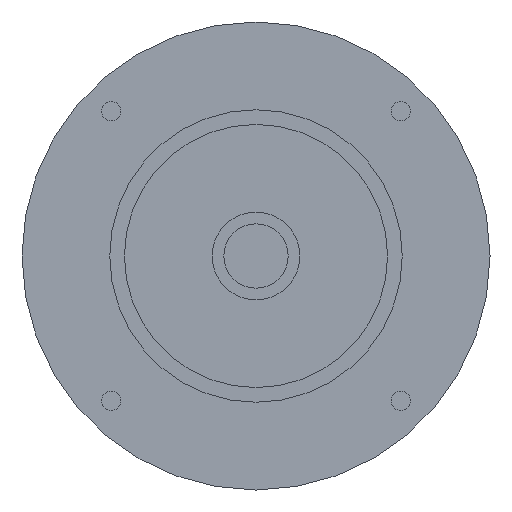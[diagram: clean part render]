
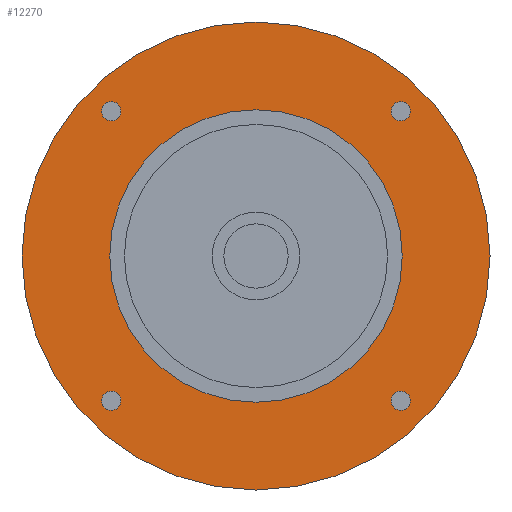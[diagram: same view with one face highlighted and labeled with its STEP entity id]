
A CAD part, left-side view. The second image highlights one B-rep face of the part: STEP entity #12270.
In plain terms, the highlighted planar face has unit normal (-1, 0, 0) as drawn and (0, 0, -1) by its records, which use the part's own axes.
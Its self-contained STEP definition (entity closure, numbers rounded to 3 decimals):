
#8640=CARTESIAN_POINT('',(-26.399,24.749,-42.2));
#8650=VERTEX_POINT('',#8640);
#8830=CARTESIAN_POINT('',(-23.099,24.749,-42.2));
#8840=VERTEX_POINT('',#8830);
#8870=CARTESIAN_POINT('',(-24.749,24.749,-42.2));
#8880=DIRECTION('',(0.,0.,-1.));
#8890=DIRECTION('',(1.,0.,0.));
#8900=AXIS2_PLACEMENT_3D('',#8870,#8880,#8890);
#8910=CIRCLE('',#8900,1.65);
#8920=EDGE_CURVE('',#8650,#8840,#8910,.T.);
#9060=CARTESIAN_POINT('',(23.099,24.749,-42.2));
#9070=VERTEX_POINT('',#9060);
#9250=CARTESIAN_POINT('',(26.399,24.749,-42.2));
#9260=VERTEX_POINT('',#9250);
#9290=CARTESIAN_POINT('',(24.749,24.749,-42.2));
#9300=DIRECTION('',(0.,0.,-1.));
#9310=DIRECTION('',(1.,0.,0.));
#9320=AXIS2_PLACEMENT_3D('',#9290,#9300,#9310);
#9330=CIRCLE('',#9320,1.65);
#9340=EDGE_CURVE('',#9070,#9260,#9330,.T.);
#11390=CARTESIAN_POINT('',(-40.,0.,-42.2));
#11400=VERTEX_POINT('',#11390);
#11430=CARTESIAN_POINT('',(0.,0.,
-42.2));
#11440=DIRECTION('',(0.,0.,-1.));
#11450=DIRECTION('',(1.,0.,0.));
#11460=AXIS2_PLACEMENT_3D('',#11430,#11440,#11450);
#11470=CIRCLE('',#11460,40.);
#11480=CARTESIAN_POINT('',(40.,0.,-42.2));
#11490=VERTEX_POINT('',#11480);
#11500=EDGE_CURVE('',#11400,#11490,#11470,.T.);
#11620=CARTESIAN_POINT('',(0.,0.,
-42.2));
#11630=DIRECTION('',(0.,0.,1.));
#11640=DIRECTION('',(1.,0.,0.));
#11650=AXIS2_PLACEMENT_3D('',#11620,#11630,#11640);
#11660=PLANE('',#11650);
#11670=CARTESIAN_POINT('',(24.749,-24.749,-42.2));
#11680=DIRECTION('',(0.,0.,-1.));
#11690=DIRECTION('',(1.,0.,0.));
#11700=AXIS2_PLACEMENT_3D('',#11670,#11680,#11690);
#11710=CIRCLE('',#11700,1.65);
#11720=CARTESIAN_POINT('',(26.399,-24.749,-42.2));
#11730=VERTEX_POINT('',#11720);
#11740=CARTESIAN_POINT('',(23.099,-24.749,-42.2));
#11750=VERTEX_POINT('',#11740);
#11760=EDGE_CURVE('',#11730,#11750,#11710,.T.);
#11770=ORIENTED_EDGE('',*,*,#11760,.F.);
#11780=EDGE_CURVE('',#11750,#11730,#11710,.T.);
#11790=ORIENTED_EDGE('',*,*,#11780,.F.);
#11800=EDGE_LOOP('',(#11790,#11770));
#11810=FACE_BOUND('',#11800,.T.);
#11820=CARTESIAN_POINT('',(0.,0.,
-42.2));
#11830=DIRECTION('',(0.,0.,1.));
#11840=DIRECTION('',(-1.,0.,0.));
#11850=AXIS2_PLACEMENT_3D('',#11820,#11830,#11840);
#11860=CIRCLE('',#11850,25.);
#11870=CARTESIAN_POINT('',(-25.,0.,-42.2));
#11880=VERTEX_POINT('',#11870);
#11890=CARTESIAN_POINT('',(25.,0.,-42.2));
#11900=VERTEX_POINT('',#11890);
#11910=EDGE_CURVE('',#11880,#11900,#11860,.T.);
#11920=ORIENTED_EDGE('',*,*,#11910,.T.);
#11930=EDGE_CURVE('',#11900,#11880,#11860,.T.);
#11940=ORIENTED_EDGE('',*,*,#11930,.T.);
#11950=EDGE_LOOP('',(#11940,#11920));
#11960=FACE_BOUND('',#11950,.T.);
#11970=CARTESIAN_POINT('',(-24.749,-24.749,-42.2));
#11980=DIRECTION('',(0.,0.,-1.));
#11990=DIRECTION('',(1.,0.,0.));
#12000=AXIS2_PLACEMENT_3D('',#11970,#11980,#11990);
#12010=CIRCLE('',#12000,1.65);
#12020=CARTESIAN_POINT('',(-23.099,-24.749,-42.2));
#12030=VERTEX_POINT('',#12020);
#12040=CARTESIAN_POINT('',(-26.399,-24.749,-42.2));
#12050=VERTEX_POINT('',#12040);
#12060=EDGE_CURVE('',#12030,#12050,#12010,.T.);
#12070=ORIENTED_EDGE('',*,*,#12060,.F.);
#12080=EDGE_CURVE('',#12050,#12030,#12010,.T.);
#12090=ORIENTED_EDGE('',*,*,#12080,.F.);
#12100=EDGE_LOOP('',(#12090,#12070));
#12110=FACE_BOUND('',#12100,.T.);
#12120=EDGE_CURVE('',#8840,#8650,#8910,.T.);
#12130=ORIENTED_EDGE('',*,*,#12120,.F.);
#12140=ORIENTED_EDGE('',*,*,#8920,.F.);
#12150=EDGE_LOOP('',(#12140,#12130));
#12160=FACE_BOUND('',#12150,.T.);
#12170=EDGE_CURVE('',#9260,#9070,#9330,.T.);
#12180=ORIENTED_EDGE('',*,*,#12170,.F.);
#12190=ORIENTED_EDGE('',*,*,#9340,.F.);
#12200=EDGE_LOOP('',(#12190,#12180));
#12210=FACE_BOUND('',#12200,.T.);
#12220=EDGE_CURVE('',#11490,#11400,#11470,.T.);
#12230=ORIENTED_EDGE('',*,*,#12220,.T.);
#12240=ORIENTED_EDGE('',*,*,#11500,.T.);
#12250=EDGE_LOOP('',(#12240,#12230));
#12260=FACE_OUTER_BOUND('',#12250,.T.);
#12270=ADVANCED_FACE('',(#11810,#11960,#12110,#12160,#12210,#12260),
#11660,.F.);
